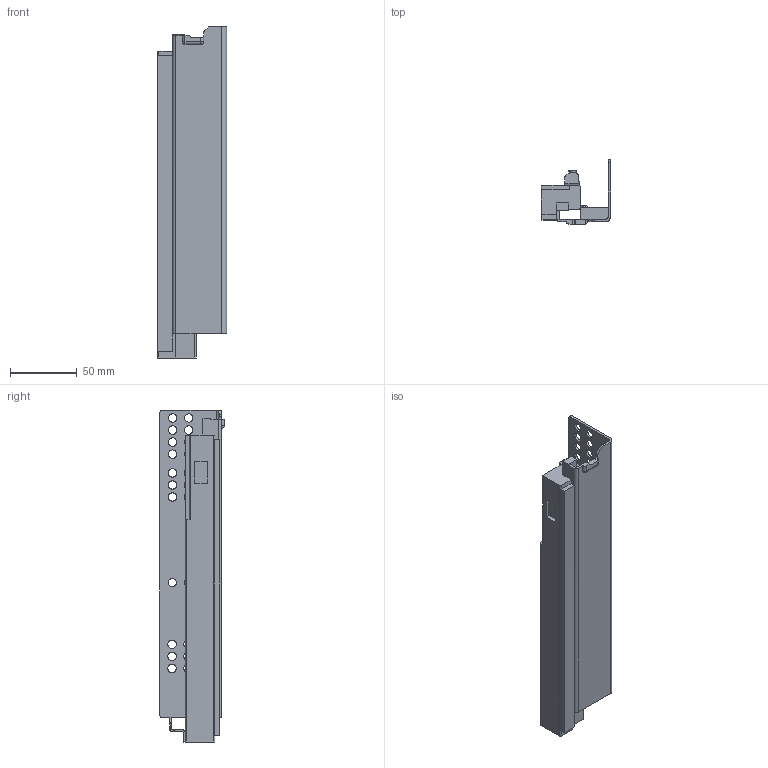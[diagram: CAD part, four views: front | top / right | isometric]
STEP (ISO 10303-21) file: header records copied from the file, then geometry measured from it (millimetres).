
FILE_DESCRIPTION (( 'STEP AP203' ), '1' );
FILE_NAME ('TS10250H-R-DTC3D-close.STEP', '2021-07-09T02:52:00', ( 'df' ), ( 'Microsoft' ), 'SwSTEP 2.0', 'SolidWorks 2018', '' );
FILE_SCHEMA (( 'CONFIG_CONTROL_DESIGN' ));
Length unit declared in the file: millimetre
Products named in the file (1): TS10250H-R-DTC3D-close
Bounding box: 51.73 x 48 x 248 mm (x, y, z)
Volume: 204237.7 mm3; surface area: 64655.3 mm2
Topology: 1 solids, 1 shells, 261 faces, 741 edges, 488 vertices
Faces by surface type: plane 112, cylinder 87, bspline 47, torus 13, sphere 2
Entity records: 10281 total; most frequent: CARTESIAN_POINT 3519, ORIENTED_EDGE 1478, DIRECTION 1256, EDGE_CURVE 739, VERTEX_POINT 488, VECTOR 422, LINE 422, AXIS2_PLACEMENT_3D 417
